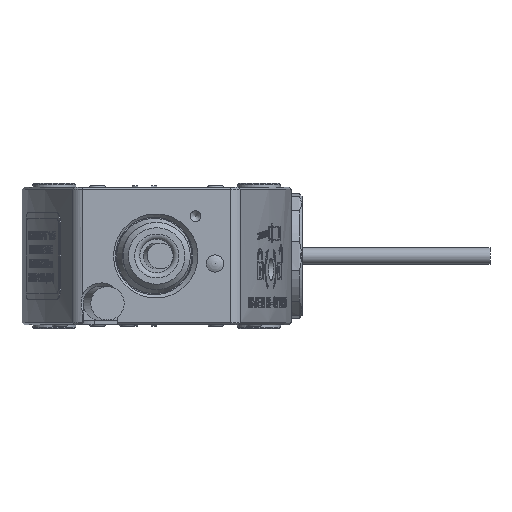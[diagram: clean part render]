
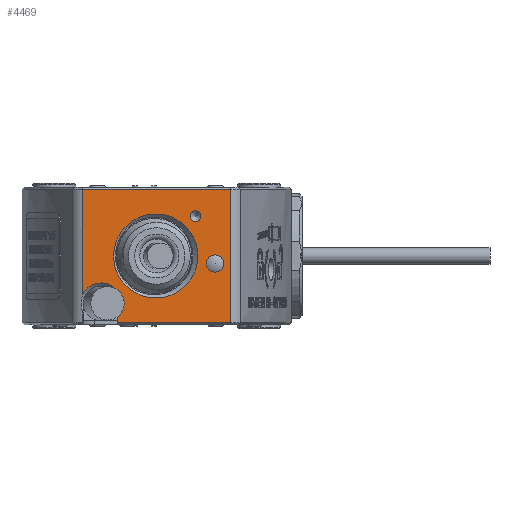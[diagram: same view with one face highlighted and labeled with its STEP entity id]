
A CAD part, left-side view. The second image highlights one B-rep face of the part: STEP entity #4469.
In plain terms, the highlighted planar face has unit normal (-1, 0, 0).
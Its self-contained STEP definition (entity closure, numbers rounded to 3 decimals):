
#4469 = ADVANCED_FACE( '', ( #13860, #13861, #13862, #13863 ), #13864, .T. );
#13860 = FACE_BOUND( '', #24450, .T. );
#13861 = FACE_BOUND( '', #24451, .T. );
#13862 = FACE_OUTER_BOUND( '', #24452, .T. );
#13863 = FACE_BOUND( '', #24453, .T. );
#13864 = PLANE( '', #24454 );
#24450 = EDGE_LOOP( '', ( #63169 ) );
#24451 = EDGE_LOOP( '', ( #63170 ) );
#24452 = EDGE_LOOP( '', ( #63171, #63172, #63173, #63174, #63175, #63176 ) );
#24453 = EDGE_LOOP( '', ( #63177 ) );
#24454 = AXIS2_PLACEMENT_3D( '', #63178, #63179, #63180 );
#63169 = ORIENTED_EDGE( '', *, *, #75312, .T. );
#63170 = ORIENTED_EDGE( '', *, *, #65300, .F. );
#63171 = ORIENTED_EDGE( '', *, *, #75315, .F. );
#63172 = ORIENTED_EDGE( '', *, *, #64598, .T. );
#63173 = ORIENTED_EDGE( '', *, *, #75330, .F. );
#63174 = ORIENTED_EDGE( '', *, *, #75331, .T. );
#63175 = ORIENTED_EDGE( '', *, *, #75332, .T. );
#63176 = ORIENTED_EDGE( '', *, *, #68420, .T. );
#63177 = ORIENTED_EDGE( '', *, *, #68413, .T. );
#63178 = CARTESIAN_POINT( '', ( -73., 40.781, 12. ) );
#63179 = DIRECTION( '', ( -1., 0., 0. ) );
#63180 = DIRECTION( '', ( 0., -1., 0. ) );
#64598 = EDGE_CURVE( '', #77324, #77328, #77330, .T. );
#65300 = EDGE_CURVE( '', #78554, #78554, #78555, .T. );
#68413 = EDGE_CURVE( '', #84682, #84682, #84683, .T. );
#68420 = EDGE_CURVE( '', #84696, #84694, #84697, .T. );
#75312 = EDGE_CURVE( '', #95138, #95138, #95139, .T. );
#75315 = EDGE_CURVE( '', #77324, #84694, #95142, .T. );
#75330 = EDGE_CURVE( '', #95163, #77328, #95164, .T. );
#75331 = EDGE_CURVE( '', #95163, #95165, #95166, .T. );
#75332 = EDGE_CURVE( '', #95165, #84696, #95167, .T. );
#77324 = VERTEX_POINT( '', #98721 );
#77328 = VERTEX_POINT( '', #98726 );
#77330 = LINE( '', #98728, #98729 );
#78554 = VERTEX_POINT( '', #101381 );
#78555 = ELLIPSE( '', #101382, 1.588, 1.588 );
#84682 = VERTEX_POINT( '', #114010 );
#84683 = ELLIPSE( '', #114011, 7.818, 7.808 );
#84694 = VERTEX_POINT( '', #114027 );
#84696 = VERTEX_POINT( '', #114030 );
#84697 = LINE( '', #114031, #114032 );
#95138 = VERTEX_POINT( '', #132881 );
#95139 = CIRCLE( '', #132882, 1. );
#95142 = LINE( '', #132891, #132892 );
#95163 = VERTEX_POINT( '', #132941 );
#95164 = LINE( '', #132942, #132943 );
#95165 = VERTEX_POINT( '', #132944 );
#95166 = LINE( '', #132945, #132946 );
#95167 = ELLIPSE( '', #132947, 3.807, 3.802 );
#98721 = CARTESIAN_POINT( '', ( -73., 13.219, -12.4 ) );
#98726 = CARTESIAN_POINT( '', ( -73., 13.219, 12.4 ) );
#98728 = CARTESIAN_POINT( '', ( -73., 13.219, 12. ) );
#98729 = VECTOR( '', #134150, 1000. );
#101381 = CARTESIAN_POINT( '', ( -73., 17.774, -1.4 ) );
#101382 = AXIS2_PLACEMENT_3D( '', #135333, #135334, #135335 );
#114010 = CARTESIAN_POINT( '', ( -73., 34.982, 0. ) );
#114011 = AXIS2_PLACEMENT_3D( '', #138567, #138568, #138569 );
#114027 = CARTESIAN_POINT( '', ( -73., 34.246, -12.4 ) );
#114030 = CARTESIAN_POINT( '', ( -73., 34.246, -11.05 ) );
#114031 = CARTESIAN_POINT( '', ( -73., 34.246, 1.6 ) );
#114032 = VECTOR( '', #138576, 1000. );
#132881 = CARTESIAN_POINT( '', ( -73., 19.772, 8.4 ) );
#132882 = AXIS2_PLACEMENT_3D( '', #146199, #146200, #146201 );
#132891 = CARTESIAN_POINT( '', ( -73., 33.9, -12.4 ) );
#132892 = VECTOR( '', #146202, 1000. );
#132941 = CARTESIAN_POINT( '', ( -73., 40.781, 12.4 ) );
#132942 = CARTESIAN_POINT( '', ( -73., 43.77, 12.4 ) );
#132943 = VECTOR( '', #146219, 1000. );
#132944 = CARTESIAN_POINT( '', ( -73., 40.781, -7.228 ) );
#132945 = CARTESIAN_POINT( '', ( -73., 40.781, 12. ) );
#132946 = VECTOR( '', #146220, 1000. );
#132947 = AXIS2_PLACEMENT_3D( '', #146221, #146222, #146223 );
#134150 = DIRECTION( '', ( 0., 0., 1. ) );
#135333 = CARTESIAN_POINT( '', ( -73., 16.186, -1.4 ) );
#135334 = DIRECTION( '', ( -1., 0., 0. ) );
#135335 = DIRECTION( '', ( 0., 1., 0. ) );
#138567 = CARTESIAN_POINT( '', ( -73., 27.164, 0. ) );
#138568 = DIRECTION( '', ( 1., 0., 0. ) );
#138569 = DIRECTION( '', ( 0., -1., 0. ) );
#138576 = DIRECTION( '', ( 0., 0., -1. ) );
#146199 = CARTESIAN_POINT( '', ( -73., 19.772, 7.4 ) );
#146200 = DIRECTION( '', ( 1., 0., 0. ) );
#146201 = DIRECTION( '', ( 0., 0., 1. ) );
#146202 = DIRECTION( '', ( 0., 1., 0. ) );
#146219 = DIRECTION( '', ( 0., -1., 0. ) );
#146220 = DIRECTION( '', ( 0., 0., -1. ) );
#146221 = CARTESIAN_POINT( '', ( -73., 37.315, -8.8 ) );
#146222 = DIRECTION( '', ( 1., 0., 0. ) );
#146223 = DIRECTION( '', ( 0., 1., 0. ) );
